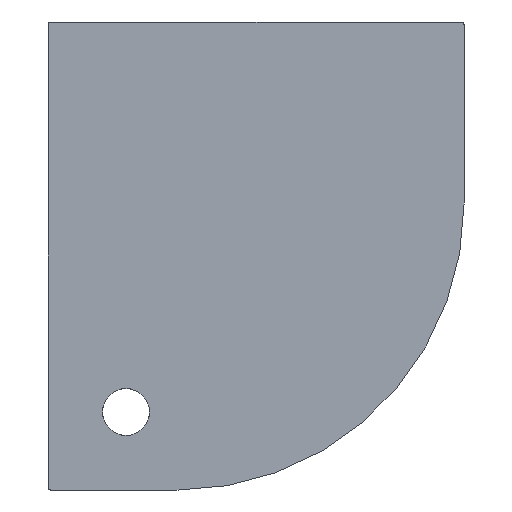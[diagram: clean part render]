
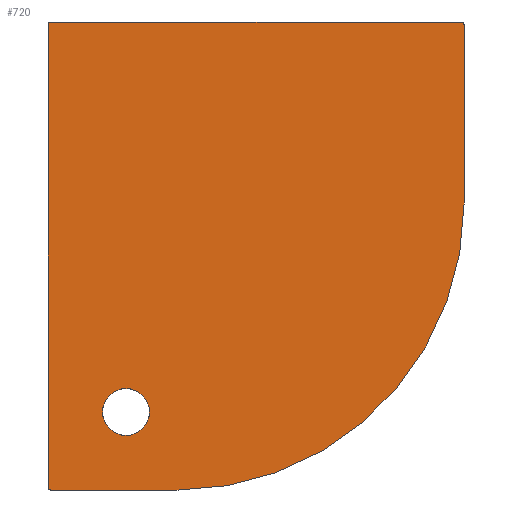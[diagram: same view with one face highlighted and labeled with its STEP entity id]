
A CAD part, front view. The second image highlights one B-rep face of the part: STEP entity #720.
In plain terms, the highlighted planar face has unit normal (0, -1, 0).
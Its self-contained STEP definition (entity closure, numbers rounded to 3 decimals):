
#43=FACE_BOUND('',#150,.T.);
#54=PLANE('',#826);
#100=FACE_OUTER_BOUND('',#149,.T.);
#149=EDGE_LOOP('',(#630,#631,#632,#633,#634,#635,#636,#637));
#150=EDGE_LOOP('',(#638));
#161=LINE('',#1093,#206);
#162=LINE('',#1096,#207);
#174=LINE('',#1133,#219);
#198=LINE('',#1453,#243);
#206=VECTOR('',#867,10.);
#207=VECTOR('',#870,10.);
#219=VECTOR('',#904,10.);
#243=VECTOR('',#1046,10.);
#245=CIRCLE('',#740,5.);
#249=CIRCLE('',#746,5.);
#282=CIRCLE('',#818,5.);
#285=CIRCLE('',#825,550.);
#286=CIRCLE('',#827,45.);
#289=VERTEX_POINT('',#1064);
#290=VERTEX_POINT('',#1065);
#296=VERTEX_POINT('',#1081);
#297=VERTEX_POINT('',#1082);
#299=VERTEX_POINT('',#1095);
#313=VERTEX_POINT('',#1131);
#340=VERTEX_POINT('',#1441);
#342=VERTEX_POINT('',#1451);
#343=VERTEX_POINT('',#1457);
#348=EDGE_CURVE('',#289,#290,#245,.T.);
#356=EDGE_CURVE('',#296,#297,#249,.T.);
#362=EDGE_CURVE('',#297,#289,#161,.F.);
#363=EDGE_CURVE('',#299,#296,#162,.T.);
#382=EDGE_CURVE('',#290,#313,#174,.T.);
#434=EDGE_CURVE('',#340,#313,#282,.T.);
#440=EDGE_CURVE('',#340,#342,#198,.T.);
#441=EDGE_CURVE('',#299,#342,#285,.T.);
#442=EDGE_CURVE('',#343,#343,#286,.T.);
#630=ORIENTED_EDGE('',*,*,#348,.T.);
#631=ORIENTED_EDGE('',*,*,#382,.T.);
#632=ORIENTED_EDGE('',*,*,#434,.F.);
#633=ORIENTED_EDGE('',*,*,#440,.T.);
#634=ORIENTED_EDGE('',*,*,#441,.F.);
#635=ORIENTED_EDGE('',*,*,#363,.T.);
#636=ORIENTED_EDGE('',*,*,#356,.T.);
#637=ORIENTED_EDGE('',*,*,#362,.T.);
#638=ORIENTED_EDGE('',*,*,#442,.T.);
#720=ADVANCED_FACE('',(#100,#43),#54,.F.);
#740=AXIS2_PLACEMENT_3D('',#1066,#835,#836);
#746=AXIS2_PLACEMENT_3D('',#1083,#851,#852);
#818=AXIS2_PLACEMENT_3D('',#1442,#1031,#1032);
#825=AXIS2_PLACEMENT_3D('',#1455,#1049,#1050);
#826=AXIS2_PLACEMENT_3D('',#1456,#1051,#1052);
#827=AXIS2_PLACEMENT_3D('',#1458,#1053,#1054);
#835=DIRECTION('center_axis',(0.,-1.,0.));
#836=DIRECTION('ref_axis',(-0.707,0.,0.707));
#851=DIRECTION('center_axis',(0.,-1.,0.));
#852=DIRECTION('ref_axis',(0.707,0.,0.707));
#867=DIRECTION('',(1.,0.,0.));
#870=DIRECTION('',(0.,0.,1.));
#904=DIRECTION('',(0.,0.,-1.));
#1031=DIRECTION('center_axis',(0.,1.,0.));
#1032=DIRECTION('ref_axis',(-0.707,0.,-0.707));
#1046=DIRECTION('',(1.,0.,0.));
#1049=DIRECTION('center_axis',(0.,1.,0.));
#1050=DIRECTION('ref_axis',(1.,0.,0.));
#1051=DIRECTION('center_axis',(0.,1.,0.));
#1052=DIRECTION('ref_axis',(0.,0.,-1.));
#1053=DIRECTION('center_axis',(0.,1.,0.));
#1054=DIRECTION('ref_axis',(0.,0.,1.));
#1064=CARTESIAN_POINT('',(-345.,0.,450.));
#1065=CARTESIAN_POINT('',(-350.,0.,445.));
#1066=CARTESIAN_POINT('Origin',(-345.,0.,445.));
#1081=CARTESIAN_POINT('',(450.,0.,445.));
#1082=CARTESIAN_POINT('',(445.,0.,450.));
#1083=CARTESIAN_POINT('Origin',(445.,0.,445.));
#1093=CARTESIAN_POINT('',(-150.,0.,450.));
#1095=CARTESIAN_POINT('',(450.,0.,100.));
#1096=CARTESIAN_POINT('',(450.,0.,100.));
#1131=CARTESIAN_POINT('',(-350.,0.,-445.));
#1133=CARTESIAN_POINT('',(-350.,0.,550.));
#1441=CARTESIAN_POINT('',(-345.,0.,-450.));
#1442=CARTESIAN_POINT('Origin',(-345.,0.,-445.));
#1451=CARTESIAN_POINT('',(-100.,0.,-450.));
#1453=CARTESIAN_POINT('',(-350.,0.,-450.));
#1455=CARTESIAN_POINT('Origin',(-100.,0.,100.));
#1456=CARTESIAN_POINT('Origin',(50.,0.,50.));
#1457=CARTESIAN_POINT('',(-200.,0.,-345.));
#1458=CARTESIAN_POINT('Origin',(-200.,0.,-300.));
